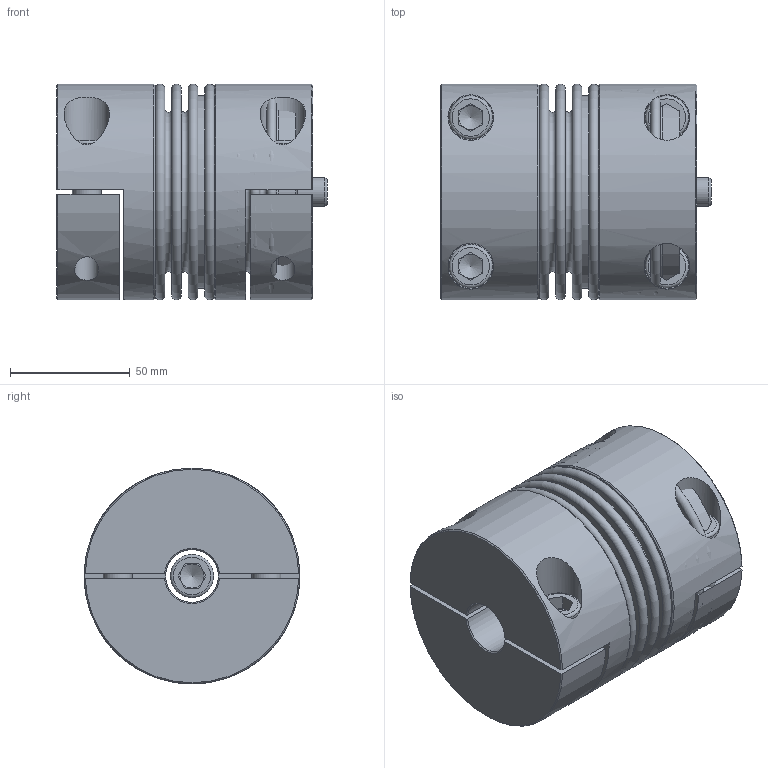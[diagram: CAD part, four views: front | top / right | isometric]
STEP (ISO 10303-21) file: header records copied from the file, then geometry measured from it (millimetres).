
FILE_DESCRIPTION( ( 'Unknown' ), '1' );
FILE_NAME( 'C:/Dokumente und Einstellungen/SKarpstein/Desktop/hp kbk/KB4H-200-105.stp', 'Unknown', ( 'Unknown' ), ( 'Unknown' ), 'XStep 1.0', 'Unknown', ' ' );
FILE_SCHEMA( ( 'automotive_design' ) );
Length unit declared in the file: millimetre
Products named in the file (5): Assem1; KN4H-200; BK200_Standard_0; Socket Head Cap Screw_DIN_DIN 912 M12 x 35 --- 35N_2
Bounding box: 112.75 x 90 x 90 mm (x, y, z)
Volume: 711630.2 mm3; surface area: 240818.5 mm2
Topology: 13 solids, 13 shells, 263 faces, 545 edges, 348 vertices
Faces by surface type: plane 144, cylinder 48, torus 46, cone 25
Full cylindrical faces by diameter (mm): 10.106 x6, 12 x5, 12.5 x6, 18 x5, 19 x6, 22 x3, 79.2 x4, 80.4 x4, 90 x3
Entity records: 2706 total; most frequent: CARTESIAN_POINT 702, DIRECTION 386, ORIENTED_EDGE 256, AXIS2_PLACEMENT_3D 173, EDGE_LOOP 154, EDGE_CURVE 128, FACE_OUTER_BOUND 121, VERTEX_POINT 105
